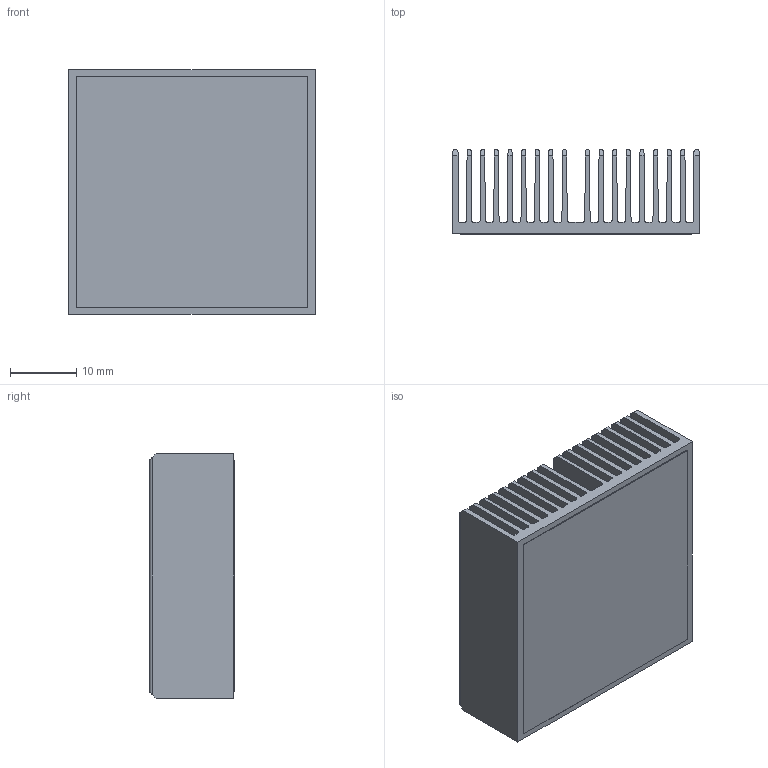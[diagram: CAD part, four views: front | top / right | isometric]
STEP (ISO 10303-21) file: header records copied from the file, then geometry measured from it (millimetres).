
FILE_DESCRIPTION (( 'STEP AP214' ), '1' );
FILE_NAME ('INL37.5001-13-1.7.STEP', '2023-03-01T15:45:44', ( '' ), ( '' ), 'SwSTEP 2.0', 'SolidWorks 2020', '' );
FILE_SCHEMA (( 'AUTOMOTIVE_DESIGN' ));
Length unit declared in the file: millimetre
Products named in the file (1): INL37.5001-13-1.7
Bounding box: 37.3 x 12.83 x 37 mm (x, y, z)
Volume: 7733.4 mm3; surface area: 19938.3 mm2
Topology: 2 solids, 2 shells, 150 faces, 438 edges, 292 vertices
Faces by surface type: plane 98, cylinder 52
Entity records: 6623 total; most frequent: CARTESIAN_POINT 989, ORIENTED_EDGE 876, DIRECTION 772, EDGE_CURVE 438, LINE 334, VECTOR 334, VERTEX_POINT 292, AXIS2_PLACEMENT_3D 219
